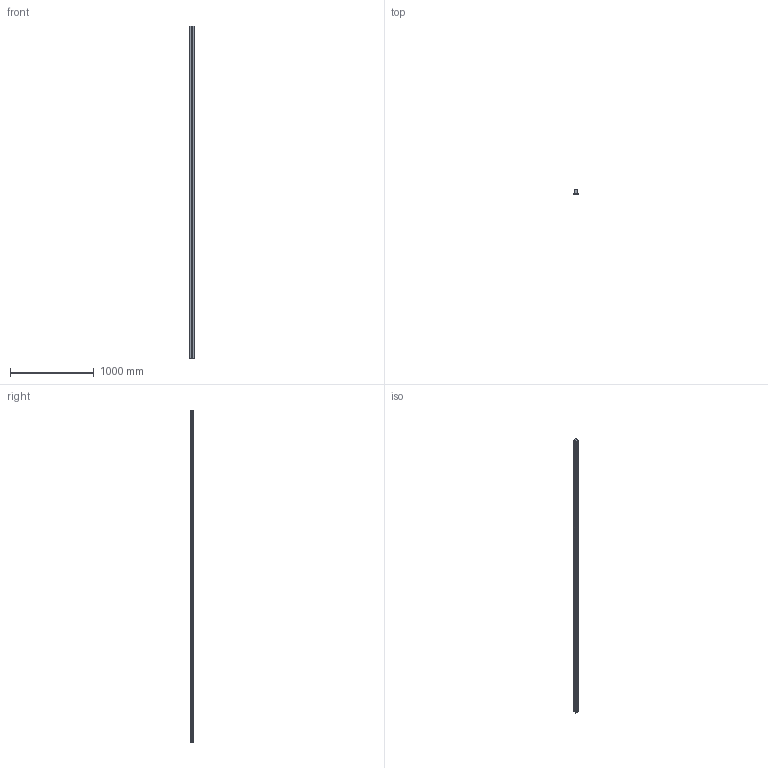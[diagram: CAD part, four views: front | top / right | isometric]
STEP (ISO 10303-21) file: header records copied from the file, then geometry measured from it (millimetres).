
FILE_DESCRIPTION((''),'2;1');
FILE_NAME('ROLLENSCHIENE_C','2021-12-23T05:46:43',('ac91sw'),(''),'CREO PARAMETRIC BY PTC INC, 2020044','CREO PARAMETRIC BY PTC INC, 2020044','');
FILE_SCHEMA(('AUTOMOTIVE_DESIGN { 1 0 10303 214 1 1 1 1 }'));
Length unit declared in the file: millimetre
Products named in the file (3): ROLLENSCHIENE_C_SKEL; ROLLENSCHIENE_C_RAIL1; ROLLENSCHIENE_C
Assembly tree (2 placements, depth 2):
  ROLLENSCHIENE_C
    ROLLENSCHIENE_C_SKEL
    ROLLENSCHIENE_C_RAIL1
Bounding box: 53 x 47.55 x 3956 mm (x, y, z)
Volume: 7573567.2 mm3; surface area: 877355.4 mm2
Topology: 1 solids, 1 shells, 324 faces, 928 edges, 734 vertices
Faces by surface type: cylinder 132, cone 132, plane 60
Entity records: 10067 total; most frequent: DIRECTION 1766, CARTESIAN_POINT 1627, ORIENTED_EDGE 1332, EDGE_CURVE 666, AXIS2_PLACEMENT_3D 617, VECTOR 532, LINE 532, VERTEX_POINT 410
